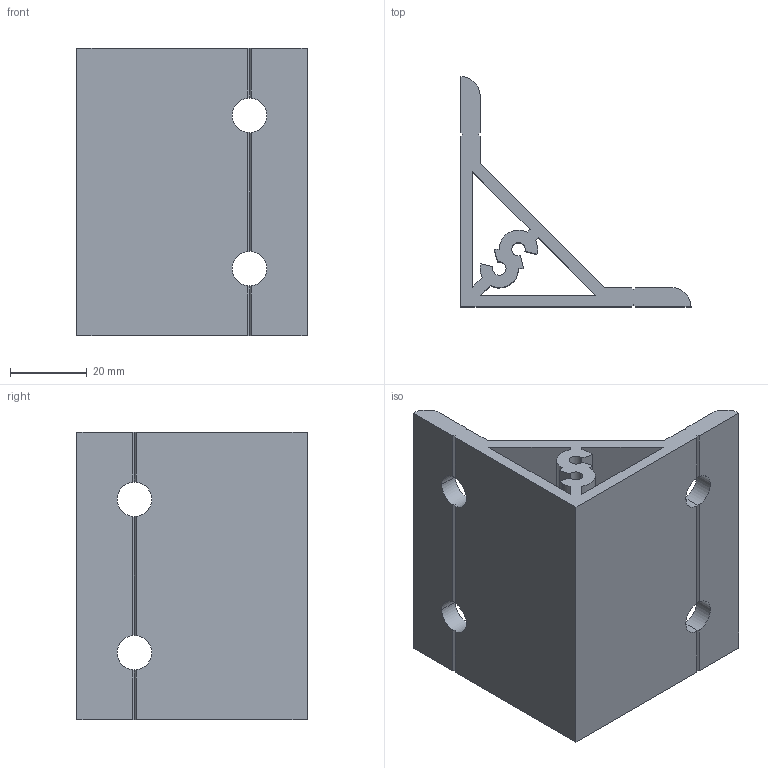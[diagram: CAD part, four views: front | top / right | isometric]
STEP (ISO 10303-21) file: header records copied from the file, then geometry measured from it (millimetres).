
FILE_DESCRIPTION (( 'STEP AP203' ), '1' );
FILE_NAME ('WL7560-8.STEP', '2024-02-19T06:14:18', ( '' ), ( '' ), 'SwSTEP 2.0', 'SolidWorks 2022', '' );
FILE_SCHEMA (( 'CONFIG_CONTROL_DESIGN' ));
Length unit declared in the file: millimetre
Products named in the file (1): WL7560-8
Bounding box: 60 x 60 x 75 mm (x, y, z)
Volume: 50268.2 mm3; surface area: 30810.8 mm2
Topology: 1 solids, 1 shells, 70 faces, 220 edges, 144 vertices
Faces by surface type: plane 47, cylinder 23
Entity records: 2535 total; most frequent: CARTESIAN_POINT 531, ORIENTED_EDGE 440, DIRECTION 384, EDGE_CURVE 220, VERTEX_POINT 144, VECTOR 134, LINE 134, AXIS2_PLACEMENT_3D 125
